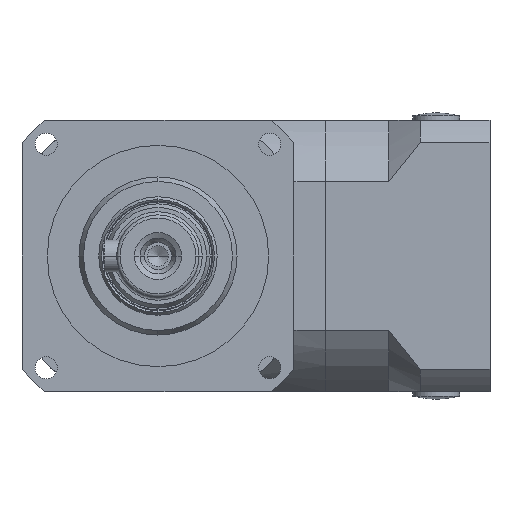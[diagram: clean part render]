
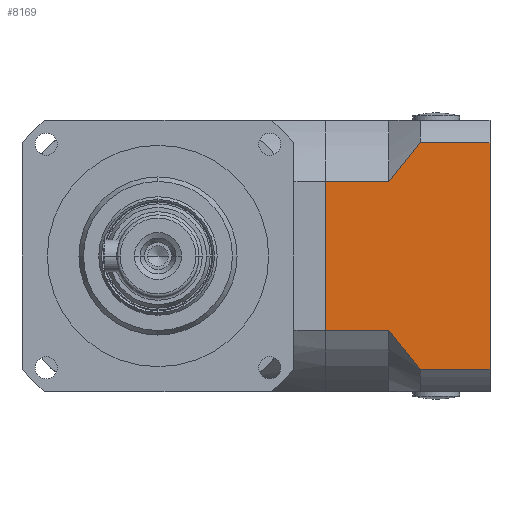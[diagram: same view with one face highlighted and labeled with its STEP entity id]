
A CAD part, left-side view. The second image highlights one B-rep face of the part: STEP entity #8169.
In plain terms, the highlighted planar face has unit normal (-1, 0, 0).
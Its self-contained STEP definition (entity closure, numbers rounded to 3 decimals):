
#442 = CARTESIAN_POINT ( 'NONE',  ( 9.5, -38.051, 13.896 ) ) ;
#477 = CARTESIAN_POINT ( 'NONE',  ( 9.5, -36.5, -11.747 ) ) ;
#1190 = ORIENTED_EDGE ( 'NONE', *, *, #15220, .T. ) ;
#1309 = CARTESIAN_POINT ( 'NONE',  ( 9.5, -40.609, -16.964 ) ) ;
#1326 = CARTESIAN_POINT ( 'NONE',  ( 9.5, -26.5, 11.747 ) ) ;
#1477 = PLANE ( 'NONE',  #10999 ) ;
#1831 = CARTESIAN_POINT ( 'NONE',  ( 9.5, -36.5, 11.747 ) ) ;
#1915 = DIRECTION ( 'NONE',  ( 0., 0., -1. ) ) ;
#2018 = B_SPLINE_CURVE_WITH_KNOTS ( 'NONE', 3,
 ( #8552, #13948, #5820, #442, #9942, #1831 ),
 .UNSPECIFIED., .F., .F.,
 ( 4, 2, 4 ),
 ( 0.035, 0.039, 0.043 ),
 .UNSPECIFIED. ) ;
#2310 = CARTESIAN_POINT ( 'NONE',  ( 9.5, -41.5, 17.937 ) ) ;
#2459 = B_SPLINE_CURVE_WITH_KNOTS ( 'NONE', 3,
 ( #6675, #14794, #5291, #8047, #17509, #9417, #1309, #10778 ),
 .UNSPECIFIED., .F., .F.,
 ( 4, 2, 2, 4 ),
 ( 0.068, 0.07, 0.072, 0.076 ),
 .UNSPECIFIED. ) ;
#2543 = EDGE_CURVE ( 'NONE', #11983, #5995, #2018, .T. ) ;
#2637 = LINE ( 'NONE', #3098, #16184 ) ;
#2677 = VECTOR ( 'NONE', #13772, 1000. ) ;
#2813 = EDGE_CURVE ( 'NONE', #6645, #16007, #2459, .T. ) ;
#2949 = CARTESIAN_POINT ( 'NONE',  ( 9.5, -26.5, 11.747 ) ) ;
#3098 = CARTESIAN_POINT ( 'NONE',  ( 9.5, -26.5, -17.937 ) ) ;
#3263 = ORIENTED_EDGE ( 'NONE', *, *, #16148, .T. ) ;
#3505 = ORIENTED_EDGE ( 'NONE', *, *, #6734, .F. ) ;
#3920 = ORIENTED_EDGE ( 'NONE', *, *, #17108, .F. ) ;
#3979 = CARTESIAN_POINT ( 'NONE',  ( 9.5, -26.5, 17.937 ) ) ;
#4438 = DIRECTION ( 'NONE',  ( 0., 1., 0. ) ) ;
#4642 = ORIENTED_EDGE ( 'NONE', *, *, #12933, .F. ) ;
#4844 = DIRECTION ( 'NONE',  ( 0., 0., 1. ) ) ;
#4903 = VERTEX_POINT ( 'NONE', #5234 ) ;
#5156 = VECTOR ( 'NONE', #8228, 1000. ) ;
#5234 = CARTESIAN_POINT ( 'NONE',  ( 9.5, -52.5, -17.937 ) ) ;
#5291 = CARTESIAN_POINT ( 'NONE',  ( 9.5, -37.269, -12.841 ) ) ;
#5425 = VECTOR ( 'NONE', #4844, 1000. ) ;
#5820 = CARTESIAN_POINT ( 'NONE',  ( 9.5, -39.731, 15.958 ) ) ;
#5995 = VERTEX_POINT ( 'NONE', #8476 ) ;
#6144 = LINE ( 'NONE', #3979, #13376 ) ;
#6258 = CARTESIAN_POINT ( 'NONE',  ( 9.5, -52.5, 17.937 ) ) ;
#6645 = VERTEX_POINT ( 'NONE', #477 ) ;
#6675 = CARTESIAN_POINT ( 'NONE',  ( 9.5, -36.5, -11.747 ) ) ;
#6690 = LINE ( 'NONE', #2949, #2677 ) ;
#6734 = EDGE_CURVE ( 'NONE', #7892, #4903, #13418, .T. ) ;
#6892 = DIRECTION ( 'NONE',  ( 1., 0., 0. ) ) ;
#7892 = VERTEX_POINT ( 'NONE', #6258 ) ;
#8047 = CARTESIAN_POINT ( 'NONE',  ( 9.5, -38.072, -13.904 ) ) ;
#8052 = CARTESIAN_POINT ( 'NONE',  ( 9.5, -41.5, -17.937 ) ) ;
#8169 = ADVANCED_FACE ( 'NONE', ( #8814 ), #1477, .F. ) ;
#8228 = DIRECTION ( 'NONE',  ( 0., -1., 0. ) ) ;
#8476 = CARTESIAN_POINT ( 'NONE',  ( 9.5, -36.5, 11.747 ) ) ;
#8552 = CARTESIAN_POINT ( 'NONE',  ( 9.5, -41.5, 17.937 ) ) ;
#8626 = ORIENTED_EDGE ( 'NONE', *, *, #2543, .T. ) ;
#8746 = VERTEX_POINT ( 'NONE', #1326 ) ;
#8814 = FACE_OUTER_BOUND ( 'NONE', #11475, .T. ) ;
#9417 = CARTESIAN_POINT ( 'NONE',  ( 9.5, -39.739, -15.968 ) ) ;
#9536 = CARTESIAN_POINT ( 'NONE',  ( 9.5, -26.5, -11.747 ) ) ;
#9594 = CARTESIAN_POINT ( 'NONE',  ( 9.5, -26.5, -11.747 ) ) ;
#9729 = ORIENTED_EDGE ( 'NONE', *, *, #2813, .T. ) ;
#9942 = CARTESIAN_POINT ( 'NONE',  ( 9.5, -37.247, 12.838 ) ) ;
#10247 = VECTOR ( 'NONE', #1915, 1000. ) ;
#10778 = CARTESIAN_POINT ( 'NONE',  ( 9.5, -41.5, -17.937 ) ) ;
#10999 = AXIS2_PLACEMENT_3D ( 'NONE', #15018, #6892, #16371 ) ;
#11335 = EDGE_CURVE ( 'NONE', #11983, #7892, #6144, .T. ) ;
#11475 = EDGE_LOOP ( 'NONE', ( #1190, #9729, #3920, #3505, #11808, #8626, #3263, #4642 ) ) ;
#11808 = ORIENTED_EDGE ( 'NONE', *, *, #11335, .F. ) ;
#11934 = VERTEX_POINT ( 'NONE', #9594 ) ;
#11974 = LINE ( 'NONE', #9536, #5156 ) ;
#11983 = VERTEX_POINT ( 'NONE', #2310 ) ;
#11994 = DIRECTION ( 'NONE',  ( 0., -1., 0. ) ) ;
#12786 = CARTESIAN_POINT ( 'NONE',  ( 9.5, -52.5, 0. ) ) ;
#12933 = EDGE_CURVE ( 'NONE', #11934, #8746, #16669, .T. ) ;
#13376 = VECTOR ( 'NONE', #11994, 1000. ) ;
#13418 = LINE ( 'NONE', #12786, #10247 ) ;
#13772 = DIRECTION ( 'NONE',  ( 0., 1., 0. ) ) ;
#13948 = CARTESIAN_POINT ( 'NONE',  ( 9.5, -40.604, 16.958 ) ) ;
#14794 = CARTESIAN_POINT ( 'NONE',  ( 9.5, -36.877, -12.298 ) ) ;
#15018 = CARTESIAN_POINT ( 'NONE',  ( 9.5, -26.5, -21.5 ) ) ;
#15220 = EDGE_CURVE ( 'NONE', #11934, #6645, #11974, .T. ) ;
#16007 = VERTEX_POINT ( 'NONE', #8052 ) ;
#16148 = EDGE_CURVE ( 'NONE', #5995, #8746, #6690, .T. ) ;
#16184 = VECTOR ( 'NONE', #4438, 1000. ) ;
#16371 = DIRECTION ( 'NONE',  ( 0., 0., -1. ) ) ;
#16669 = LINE ( 'NONE', #17001, #5425 ) ;
#17001 = CARTESIAN_POINT ( 'NONE',  ( 9.5, -26.5, -21.5 ) ) ;
#17108 = EDGE_CURVE ( 'NONE', #4903, #16007, #2637, .T. ) ;
#17509 = CARTESIAN_POINT ( 'NONE',  ( 9.5, -38.483, -14.426 ) ) ;
